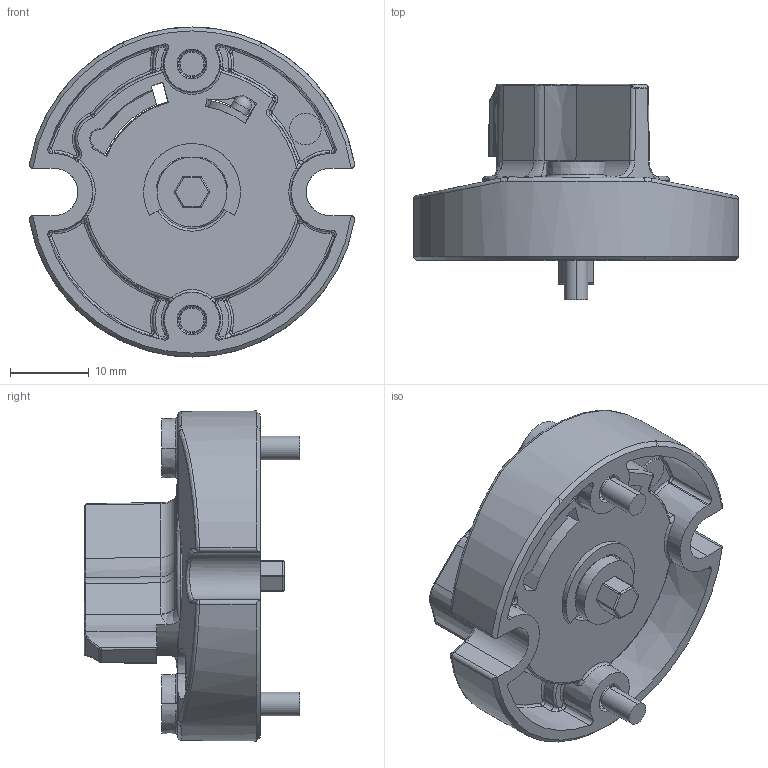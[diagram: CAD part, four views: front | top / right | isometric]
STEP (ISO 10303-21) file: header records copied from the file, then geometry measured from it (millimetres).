
FILE_DESCRIPTION((''),'2;1');
FILE_NAME('2029261','2020-06-05T11:13:23',('l.merz'),(''),'CREO PARAMETRIC BY PTC INC, 2019292','CREO PARAMETRIC BY PTC INC, 2019292','');
FILE_SCHEMA(('AUTOMOTIVE_DESIGN { 1 0 10303 214 1 1 1 1 }'));
Length unit declared in the file: millimetre
Products named in the file (1): 2029261
Bounding box: 41.3 x 27.35 x 41.9 mm (x, y, z)
Volume: 9558.1 mm3; surface area: 9015.1 mm2
Topology: 1 solids, 1 shells, 889 faces, 2455 edges, 1582 vertices
Faces by surface type: plane 212, extrusion 185, cylinder 175, torus 117, bspline 112, cone 72, sphere 16
Entity records: 45988 total; most frequent: CARTESIAN_POINT 16659, ORIENTED_EDGE 4878, DIRECTION 3906, PRESENTATION_STYLE_ASSIGNMENT 2441, STYLED_ITEM 2441, CURVE_STYLE 2440, EDGE_CURVE 2439, VERTEX_POINT 1582
